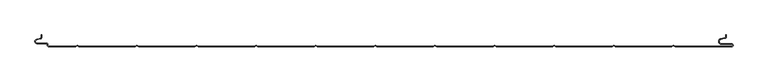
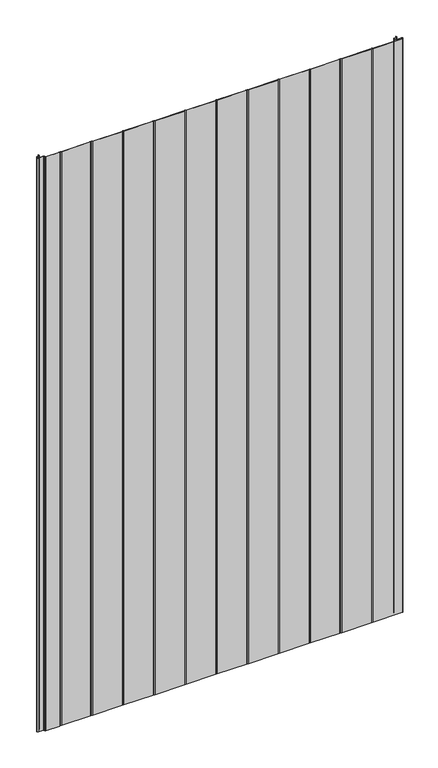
"""IFC4 building model written with IfcOpenShell, lengths in millimetres: plate geometry, PM1_Curtain-Panel_Perfil-Frigorífico : ACH_PM1_Panel-Acústico-Sectorización_50M."""

from ifc_helpers import new_model, si_unit, frame, origin, place, context, project, spatial, polyline, circle_curve, source, transform, mapped, element, save
from ifc_brep_helpers import plane_surface, cylinder_surface, revolved_surface, advanced_brep


def plate_24b0a13b(model_context):
    return source(origin(), model_context, "Body", "AdvancedBrep", [
        advanced_brep(
        [(-575.0, -34.121443, 1945.7507136), (-576.5500978, -36.0701831, 1945.7507136), (-582.7098239, -37.492268, 1945.7507136), (-581.9, -44.6, 1945.7507136), (-566.4, -44.6, 1945.7507136), (-564.4, -46.6, 1945.7507136), (-564.4, -48.0, 1945.7507136), (-562.4, -50.0, 1945.7507136), (-517.0999995, -50.0, 1945.7507136), (-514.4, -48.4411545, 1945.7507136), (-511.7000005, -50.0, 1945.7507136), (-417.0999995, -50.0, 1945.7507136), (-414.4, -48.4411545, 1945.7507136), (-411.7000005, -50.0, 1945.7507136), (-317.0999995, -50.0, 1945.7507136), (-314.4, -48.4411545, 1945.7507136), (-311.7000005, -50.0, 1945.7507136), (-217.0999995, -50.0, 1945.7507136), (-214.4, -48.4411545, 1945.7507136), (-211.7000005, -50.0, 1945.7507136), (-117.0999995, -50.0, 1945.7507136), (-114.4, -48.4411545, 1945.7507136), (-111.7000005, -50.0, 1945.7507136), (-17.0999995, -50.0, 1945.7507136), (-14.4, -48.4411545, 1945.7507136), (-11.7000005, -50.0, 1945.7507136), (82.9000005, -50.0, 1945.7507136), (85.6, -48.4411545, 1945.7507136), (88.2999995, -50.0, 1945.7507136), (182.9000005, -50.0, 1945.7507136), (185.6, -48.4411545, 1945.7507136), (188.2999995, -50.0, 1945.7507136), (282.9000005, -50.0, 1945.7507136), (285.6, -48.4411545, 1945.7507136), (288.2999995, -50.0, 1945.7507136), (382.9000005, -50.0, 1945.7507136), (385.6, -48.4411545, 1945.7507136), (388.2999995, -50.0, 1945.7507136), (482.9000005, -50.0, 1945.7507136), (485.6, -48.4411545, 1945.7507136), (488.2999995, -50.0, 1945.7507136), (583.1, -50.0, 1945.7507136), (585.6, -47.5, 1945.7507136), (583.1, -45.0, 1945.7507136), (566.1, -45.0, 1945.7507136), (565.405407, -37.060769, 1945.7507136), (571.8514855, -35.9241509, 1945.7507136), (574.0, -33.3636508, 1945.7507136), (574.0, -30.0, 1945.7507136), (573.2, -30.0, 1945.7507136), (573.2, -33.3636508, 1945.7507136), (571.7125669, -35.1363047, 1945.7507136), (565.2664884, -36.2729228, 1945.7507136), (566.1, -45.8, 1945.7507136), (583.1, -45.8, 1945.7507136), (583.1, -49.2, 1945.7507136), (488.5143588, -49.2, 1945.7507136), (485.6, -47.517394, 1945.7507136), (482.6856412, -49.2, 1945.7507136), (388.5143588, -49.2, 1945.7507136), (385.6, -47.517394, 1945.7507136), (382.6856412, -49.2, 1945.7507136), (288.5143588, -49.2, 1945.7507136), (285.6, -47.517394, 1945.7507136), (282.6856412, -49.2, 1945.7507136), (188.5143588, -49.2, 1945.7507136), (185.6, -47.517394, 1945.7507136), (182.6856412, -49.2, 1945.7507136), (88.5143588, -49.2, 1945.7507136), (85.6, -47.517394, 1945.7507136), (82.6856412, -49.2, 1945.7507136), (-11.4856412, -49.2, 1945.7507136), (-14.4, -47.517394, 1945.7507136), (-17.3143588, -49.2, 1945.7507136), (-111.4856412, -49.2, 1945.7507136), (-114.4, -47.517394, 1945.7507136), (-117.3143588, -49.2, 1945.7507136), (-211.4856412, -49.2, 1945.7507136), (-214.4, -47.517394, 1945.7507136), (-217.3143588, -49.2, 1945.7507136), (-311.4856412, -49.2, 1945.7507136), (-314.4, -47.517394, 1945.7507136), (-317.3143588, -49.2, 1945.7507136), (-411.4856412, -49.2, 1945.7507136), (-414.4, -47.517394, 1945.7507136), (-417.3143588, -49.2, 1945.7507136), (-511.4856412, -49.2, 1945.7507136), (-514.4, -47.517394, 1945.7507136), (-517.3143588, -49.2, 1945.7507136), (-562.4, -49.2, 1945.7507136), (-563.6, -48.0, 1945.7507136), (-563.6, -46.6, 1945.7507136), (-566.4, -43.8, 1945.7507136), (-581.9, -43.8, 1945.7507136), (-582.529863, -38.2717638, 1945.7507136), (-576.370137, -36.849679, 1945.7507136), (-574.2, -34.121443, 1945.7507136), (-574.2, -30.0, 1945.7507136), (-575.0, -30.0, 1945.7507136), (-575.0, -34.121443, 0.0), (-575.0, -30.0, 0.0), (-574.2, -30.0, 0.0), (-574.2, -34.121443, 0.0), (-576.370137, -36.8496792, 0.0), (-582.529863, -38.271764, 0.0), (-581.9, -43.8, 0.0), (-566.4, -43.8, 0.0), (-563.6, -46.6, 0.0), (-563.6, -48.0, 0.0), (-562.4, -49.2, 0.0), (-517.3143588, -49.2, 0.0), (-514.4, -47.517394, 0.0), (-511.4856412, -49.2, 0.0), (-417.3143588, -49.2, 0.0), (-414.4, -47.517394, 0.0), (-411.4856412, -49.2, 0.0), (-317.3143588, -49.2, 0.0), (-314.4, -47.517394, 0.0), (-311.4856412, -49.2, 0.0), (-217.3143588, -49.2, 0.0), (-214.4, -47.517394, 0.0), (-211.4856412, -49.2, 0.0), (-117.3143588, -49.2, 0.0), (-114.4, -47.517394, 0.0), (-111.4856412, -49.2, 0.0), (-17.3143588, -49.2, 0.0), (-14.4, -47.517394, 0.0), (-11.4856412, -49.2, 0.0), (82.6856412, -49.2, 0.0), (85.6, -47.517394, 0.0), (88.5143588, -49.2, 0.0), (182.6856412, -49.2, 0.0), (185.6, -47.517394, 0.0), (188.5143588, -49.2, 0.0), (282.6856412, -49.2, 0.0), (285.6, -47.517394, 0.0), (288.5143588, -49.2, 0.0), (382.6856412, -49.2, 0.0), (385.6, -47.517394, 0.0), (388.5143588, -49.2, 0.0), (482.6856412, -49.2, 0.0), (485.6, -47.517394, 0.0), (488.5143588, -49.2, 0.0), (583.1, -49.2, 0.0), (583.1, -45.8, 0.0), (566.1, -45.8, 0.0), (565.2664884, -36.2729229, 0.0), (571.7125669, -35.1363047, 0.0), (573.2, -33.3636508, 0.0), (573.2, -30.0, 0.0), (574.0, -30.0, 0.0), (574.0, -33.3636508, 0.0), (571.8514855, -35.9241509, 0.0), (565.405407, -37.060769, 0.0), (566.1, -45.0, 0.0), (583.1, -45.0, 0.0), (585.6, -47.5, 0.0), (583.1, -50.0, 0.0), (488.2999995, -50.0, 0.0), (485.6, -48.4411545, 0.0), (482.9000005, -50.0, 0.0), (388.2999995, -50.0, 0.0), (385.6, -48.4411545, 0.0), (382.9000005, -50.0, 0.0), (288.2999995, -50.0, 0.0), (285.6, -48.4411545, 0.0), (282.9000005, -50.0, 0.0), (188.2999995, -50.0, 0.0), (185.6, -48.4411545, 0.0), (182.9000005, -50.0, 0.0), (88.2999995, -50.0, 0.0), (85.6, -48.4411545, 0.0), (82.9000005, -50.0, 0.0), (-11.7000005, -50.0, 0.0), (-14.4, -48.4411545, 0.0), (-17.0999995, -50.0, 0.0), (-111.7000005, -50.0, 0.0), (-114.4, -48.4411545, 0.0), (-117.0999995, -50.0, 0.0), (-211.7000005, -50.0, 0.0), (-214.4, -48.4411545, 0.0), (-217.0999995, -50.0, 0.0), (-311.7000005, -50.0, 0.0), (-314.4, -48.4411545, 0.0), (-317.0999995, -50.0, 0.0), (-411.7000005, -50.0, 0.0), (-414.4, -48.4411545, 0.0), (-417.0999995, -50.0, 0.0), (-511.7000005, -50.0, 0.0), (-514.4, -48.4411545, 0.0), (-517.0999995, -50.0, 0.0), (-562.4, -50.0, 0.0), (-564.4, -48.0, 0.0), (-564.4, -46.6, 0.0), (-566.4, -44.6, 0.0), (-581.9, -44.6, 0.0), (-582.7098239, -37.4922678, 0.0), (-576.5500979, -36.070183, 0.0)],
        [
            (0, 1, circle_curve(frame((-577.0, -34.121443, 1945.7507136), z_axis=(0.0, 0.0, -1.0), x_axis=(1.0, 0.0, 0.0)), 2.0)),
            (1, 2),
            (2, 3, circle_curve(frame((-581.9, -41.0, 1945.7507136), z_axis=(0.0, 0.0, 1.0), x_axis=(1.0, 0.0, 0.0)), 3.6)),
            (3, 4),
            (4, 5, circle_curve(frame((-566.4, -46.6, 1945.7507136), z_axis=(0.0, 0.0, -1.0), x_axis=(1.0, 0.0, 0.0)), 2.0)),
            (5, 6),
            (6, 7, circle_curve(frame((-562.4, -48.0, 1945.7507136), z_axis=(0.0, 0.0, 1.0), x_axis=(1.0, 0.0, 0.0)), 2.0)),
            (7, 8),
            (8, 9),
            (9, 10),
            (10, 11),
            (11, 12),
            (12, 13),
            (13, 14),
            (14, 15),
            (15, 16),
            (16, 17),
            (17, 18),
            (18, 19),
            (19, 20),
            (20, 21),
            (21, 22),
            (22, 23),
            (23, 24),
            (24, 25),
            (25, 26),
            (26, 27),
            (27, 28),
            (28, 29),
            (29, 30),
            (30, 31),
            (31, 32),
            (32, 33),
            (33, 34),
            (34, 35),
            (35, 36),
            (36, 37),
            (37, 38),
            (38, 39),
            (39, 40),
            (40, 41),
            (41, 42, circle_curve(frame((583.1, -47.5, 1945.7507136), z_axis=(0.0, 0.0, 1.0), x_axis=(1.0, 0.0, 0.0)), 2.5)),
            (42, 43, circle_curve(frame((583.1, -47.5, 1945.7507136), z_axis=(0.0, 0.0, 1.0), x_axis=(1.0, 0.0, 0.0)), 2.5)),
            (43, 44),
            (44, 45, circle_curve(frame((566.1, -41.0, 1945.7507136), z_axis=(0.0, 0.0, -1.0), x_axis=(1.0, 0.0, 0.0)), 4.0)),
            (45, 46),
            (46, 47, circle_curve(frame((571.4, -33.3636508, 1945.7507136), z_axis=(0.0, 0.0, 1.0), x_axis=(1.0, 0.0, 0.0)), 2.6)),
            (47, 48),
            (48, 49),
            (49, 50),
            (50, 51, circle_curve(frame((571.4, -33.3636508, 1945.7507136), z_axis=(0.0, 0.0, -1.0), x_axis=(1.0, 0.0, 0.0)), 1.8)),
            (51, 52),
            (52, 53, circle_curve(frame((566.1, -41.0, 1945.7507136), z_axis=(0.0, 0.0, 1.0), x_axis=(1.0, 0.0, 0.0)), 4.8)),
            (53, 54),
            (54, 55, circle_curve(frame((583.1, -47.5, 1945.7507136), z_axis=(0.0, 0.0, -1.0), x_axis=(1.0, 0.0, 0.0)), 1.7)),
            (55, 56),
            (56, 57),
            (57, 58),
            (58, 59),
            (59, 60),
            (60, 61),
            (61, 62),
            (62, 63),
            (63, 64),
            (64, 65),
            (65, 66),
            (66, 67),
            (67, 68),
            (68, 69),
            (69, 70),
            (70, 71),
            (71, 72),
            (72, 73),
            (73, 74),
            (74, 75),
            (75, 76),
            (76, 77),
            (77, 78),
            (78, 79),
            (79, 80),
            (80, 81),
            (81, 82),
            (82, 83),
            (83, 84),
            (84, 85),
            (85, 86),
            (86, 87),
            (87, 88),
            (88, 89),
            (89, 90, circle_curve(frame((-562.4, -48.0, 1945.7507136), z_axis=(0.0, 0.0, -1.0), x_axis=(1.0, 0.0, 0.0)), 1.2)),
            (90, 91),
            (91, 92, circle_curve(frame((-566.4, -46.6, 1945.7507136), z_axis=(0.0, 0.0, 1.0), x_axis=(1.0, 0.0, 0.0)), 2.8)),
            (92, 93),
            (93, 94, circle_curve(frame((-581.9, -41.0, 1945.7507136), z_axis=(0.0, 0.0, -1.0), x_axis=(1.0, 0.0, 0.0)), 2.8)),
            (94, 95),
            (95, 96, circle_curve(frame((-577.0, -34.121443, 1945.7507136), z_axis=(0.0, 0.0, 1.0), x_axis=(1.0, 0.0, 0.0)), 2.8)),
            (96, 97),
            (97, 98),
            (98, 0),
            (99, 100),
            (100, 101),
            (101, 102),
            (102, 103, circle_curve(frame((-577.0, -34.121443, 0.0), z_axis=(0.0, 0.0, -1.0), x_axis=(1.0, 0.0, 0.0)), 2.8)),
            (103, 104),
            (104, 105, circle_curve(frame((-581.9, -41.0, 0.0), z_axis=(0.0, 0.0, 1.0), x_axis=(1.0, 0.0, 0.0)), 2.8)),
            (105, 106),
            (106, 107, circle_curve(frame((-566.4, -46.6, 0.0), z_axis=(0.0, 0.0, -1.0), x_axis=(1.0, 0.0, 0.0)), 2.8)),
            (107, 108),
            (108, 109, circle_curve(frame((-562.4, -48.0, 0.0), z_axis=(0.0, 0.0, 1.0), x_axis=(1.0, 0.0, 0.0)), 1.2)),
            (109, 110),
            (110, 111),
            (111, 112),
            (112, 113),
            (113, 114),
            (114, 115),
            (115, 116),
            (116, 117),
            (117, 118),
            (118, 119),
            (119, 120),
            (120, 121),
            (121, 122),
            (122, 123),
            (123, 124),
            (124, 125),
            (125, 126),
            (126, 127),
            (127, 128),
            (128, 129),
            (129, 130),
            (130, 131),
            (131, 132),
            (132, 133),
            (133, 134),
            (134, 135),
            (135, 136),
            (136, 137),
            (137, 138),
            (138, 139),
            (139, 140),
            (140, 141),
            (141, 142),
            (142, 143),
            (143, 144, circle_curve(frame((583.1, -47.5, 0.0), z_axis=(0.0, 0.0, 1.0), x_axis=(1.0, 0.0, 0.0)), 1.7)),
            (144, 145),
            (145, 146, circle_curve(frame((566.1, -41.0, 0.0), z_axis=(0.0, 0.0, -1.0), x_axis=(1.0, 0.0, 0.0)), 4.8)),
            (146, 147),
            (147, 148, circle_curve(frame((571.4, -33.3636508, 0.0), z_axis=(0.0, 0.0, 1.0), x_axis=(1.0, 0.0, 0.0)), 1.8)),
            (148, 149),
            (149, 150),
            (150, 151),
            (151, 152, circle_curve(frame((571.4, -33.3636508, 0.0), z_axis=(0.0, 0.0, -1.0), x_axis=(1.0, 0.0, 0.0)), 2.6)),
            (152, 153),
            (153, 154, circle_curve(frame((566.1, -41.0, 0.0), z_axis=(0.0, 0.0, 1.0), x_axis=(1.0, 0.0, 0.0)), 4.0)),
            (154, 155),
            (155, 156, circle_curve(frame((583.1, -47.5, 0.0), z_axis=(0.0, 0.0, -1.0), x_axis=(1.0, 0.0, 0.0)), 2.5)),
            (156, 157, circle_curve(frame((583.1, -47.5, 0.0), z_axis=(0.0, 0.0, -1.0), x_axis=(1.0, 0.0, 0.0)), 2.5)),
            (157, 158),
            (158, 159),
            (159, 160),
            (160, 161),
            (161, 162),
            (162, 163),
            (163, 164),
            (164, 165),
            (165, 166),
            (166, 167),
            (167, 168),
            (168, 169),
            (169, 170),
            (170, 171),
            (171, 172),
            (172, 173),
            (173, 174),
            (174, 175),
            (175, 176),
            (176, 177),
            (177, 178),
            (178, 179),
            (179, 180),
            (180, 181),
            (181, 182),
            (182, 183),
            (183, 184),
            (184, 185),
            (185, 186),
            (186, 187),
            (187, 188),
            (188, 189),
            (189, 190),
            (190, 191),
            (191, 192, circle_curve(frame((-562.4, -48.0, 0.0), z_axis=(0.0, 0.0, -1.0), x_axis=(1.0, 0.0, 0.0)), 2.0)),
            (192, 193),
            (193, 194, circle_curve(frame((-566.4, -46.6, 0.0), z_axis=(0.0, 0.0, 1.0), x_axis=(1.0, 0.0, 0.0)), 2.0)),
            (194, 195),
            (195, 196, circle_curve(frame((-581.9, -41.0, 0.0), z_axis=(0.0, 0.0, -1.0), x_axis=(1.0, 0.0, 0.0)), 3.6)),
            (196, 197),
            (197, 99, circle_curve(frame((-577.0, -34.121443, 0.0), z_axis=(0.0, 0.0, 1.0), x_axis=(1.0, 0.0, 0.0)), 2.0)),
            (0, 99),
            (197, 1),
            (196, 2),
            (195, 3),
            (194, 4),
            (193, 5),
            (192, 6),
            (191, 7),
            (190, 8),
            (189, 9),
            (188, 10),
            (187, 11),
            (186, 12),
            (185, 13),
            (184, 14),
            (183, 15),
            (182, 16),
            (181, 17),
            (180, 18),
            (179, 19),
            (178, 20),
            (177, 21),
            (176, 22),
            (175, 23),
            (174, 24),
            (173, 25),
            (172, 26),
            (171, 27),
            (170, 28),
            (169, 29),
            (168, 30),
            (167, 31),
            (166, 32),
            (165, 33),
            (164, 34),
            (163, 35),
            (162, 36),
            (161, 37),
            (160, 38),
            (159, 39),
            (158, 40),
            (157, 41),
            (155, 43),
            (154, 44),
            (153, 45),
            (152, 46),
            (151, 47),
            (150, 48),
            (149, 49),
            (148, 50),
            (147, 51),
            (146, 52),
            (145, 53),
            (144, 54),
            (143, 55),
            (142, 56),
            (141, 57),
            (140, 58),
            (139, 59),
            (138, 60),
            (137, 61),
            (136, 62),
            (135, 63),
            (134, 64),
            (133, 65),
            (132, 66),
            (131, 67),
            (130, 68),
            (129, 69),
            (128, 70),
            (127, 71),
            (126, 72),
            (125, 73),
            (124, 74),
            (123, 75),
            (122, 76),
            (121, 77),
            (120, 78),
            (119, 79),
            (118, 80),
            (117, 81),
            (116, 82),
            (115, 83),
            (114, 84),
            (113, 85),
            (112, 86),
            (111, 87),
            (110, 88),
            (109, 89),
            (108, 90),
            (107, 91),
            (106, 92),
            (105, 93),
            (104, 94),
            (103, 95),
            (102, 96),
            (101, 97),
            (100, 98),
        ],
        [
            plane_surface(frame((-575.0, -50.0, 1945.7507136), z_axis=(0.0, 0.0, 1.0), x_axis=(0.0, 1.0, 0.0))),
            plane_surface(frame((-575.0, -50.0, 0.0), z_axis=(0.0, 0.0, -1.0), x_axis=(0.0, 1.0, 0.0))),
            revolved_surface(polyline([(-575.0, -34.121443, 0.0), (-575.0, -34.121443, 1945.7507136)]), (-577.0, -34.121443, 1945.7507136), (0.0, 0.0, -1.0)),
            plane_surface(frame((-576.5500979, -36.070183, 1945.7507136), z_axis=(-0.22495108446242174, 0.9743700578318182, 0.0), x_axis=(0.0, 0.0, -1.0))),
            cylinder_surface(frame((-581.9, -41.0, 1945.7507136), z_axis=(0.0, 0.0, 1.0), x_axis=(1.0, 0.0, 0.0)), 3.6),
            plane_surface(frame((-581.9, -44.6, 1945.7507136), z_axis=(0.0, -1.0, 0.0), x_axis=(0.0, 0.0, -1.0))),
            revolved_surface(polyline([(-564.4, -46.6, 0.0), (-564.4, -46.6, 1945.7507136)]), (-566.4, -46.6, 1945.7507136), (0.0, 0.0, -1.0)),
            plane_surface(frame((-564.4, -46.6, 1945.7507136), z_axis=(-1.0, 0.0, 0.0), x_axis=(0.0, 0.0, -1.0))),
            cylinder_surface(frame((-562.4, -48.0, 1945.7507136), z_axis=(0.0, 0.0, 1.0), x_axis=(1.0, 0.0, 0.0)), 2.0),
            plane_surface(frame((-562.4, -50.0, 1945.7507136), z_axis=(0.0, -1.0, 0.0), x_axis=(0.0, 0.0, -1.0))),
            plane_surface(frame((-517.0999995, -50.0, 1945.7507136), z_axis=(0.5000000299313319, -0.8660253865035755, 0.0), x_axis=(0.0, 0.0, -1.0))),
            plane_surface(frame((-514.4, -48.4411545, 1945.7507136), z_axis=(-0.5000000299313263, -0.8660253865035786, 0.0), x_axis=(0.0, 0.0, -1.0))),
            plane_surface(frame((-511.7000005, -50.0, 1945.7507136), z_axis=(0.0, -1.0, 0.0), x_axis=(0.0, 0.0, -1.0))),
            plane_surface(frame((-417.0999995, -50.0, 1945.7507136), z_axis=(0.5000000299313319, -0.8660253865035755, 0.0), x_axis=(0.0, 0.0, -1.0))),
            plane_surface(frame((-414.4, -48.4411545, 1945.7507136), z_axis=(-0.5000000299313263, -0.8660253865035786, 0.0), x_axis=(0.0, 0.0, -1.0))),
            plane_surface(frame((-411.7000005, -50.0, 1945.7507136), z_axis=(0.0, -1.0, 0.0), x_axis=(0.0, 0.0, -1.0))),
            plane_surface(frame((-317.0999995, -50.0, 1945.7507136), z_axis=(0.5000000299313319, -0.8660253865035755, 0.0), x_axis=(0.0, 0.0, -1.0))),
            plane_surface(frame((-314.4, -48.4411545, 1945.7507136), z_axis=(-0.5000000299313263, -0.8660253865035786, 0.0), x_axis=(0.0, 0.0, -1.0))),
            plane_surface(frame((-311.7000005, -50.0, 1945.7507136), z_axis=(0.0, -1.0, 0.0), x_axis=(0.0, 0.0, -1.0))),
            plane_surface(frame((-217.0999995, -50.0, 1945.7507136), z_axis=(0.5000000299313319, -0.8660253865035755, 0.0), x_axis=(0.0, 0.0, -1.0))),
            plane_surface(frame((-214.4, -48.4411545, 1945.7507136), z_axis=(-0.5000000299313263, -0.8660253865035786, 0.0), x_axis=(0.0, 0.0, -1.0))),
            plane_surface(frame((-211.7000005, -50.0, 1945.7507136), z_axis=(0.0, -1.0, 0.0), x_axis=(0.0, 0.0, -1.0))),
            plane_surface(frame((-117.0999995, -50.0, 1945.7507136), z_axis=(0.5000000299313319, -0.8660253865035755, 0.0), x_axis=(0.0, 0.0, -1.0))),
            plane_surface(frame((-114.4, -48.4411545, 1945.7507136), z_axis=(-0.5000000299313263, -0.8660253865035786, 0.0), x_axis=(0.0, 0.0, -1.0))),
            plane_surface(frame((-111.7000005, -50.0, 1945.7507136), z_axis=(0.0, -1.0, 0.0), x_axis=(0.0, 0.0, -1.0))),
            plane_surface(frame((-17.0999995, -50.0, 1945.7507136), z_axis=(0.5000000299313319, -0.8660253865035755, 0.0), x_axis=(0.0, 0.0, -1.0))),
            plane_surface(frame((-14.4, -48.4411545, 1945.7507136), z_axis=(-0.5000000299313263, -0.8660253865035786, 0.0), x_axis=(0.0, 0.0, -1.0))),
            plane_surface(frame((-11.7000005, -50.0, 1945.7507136), z_axis=(0.0, -1.0, 0.0), x_axis=(0.0, 0.0, -1.0))),
            plane_surface(frame((82.9000005, -50.0, 1945.7507136), z_axis=(0.5000000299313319, -0.8660253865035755, 0.0), x_axis=(0.0, 0.0, -1.0))),
            plane_surface(frame((85.6, -48.4411545, 1945.7507136), z_axis=(-0.5000000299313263, -0.8660253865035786, 0.0), x_axis=(0.0, 0.0, -1.0))),
            plane_surface(frame((88.2999995, -50.0, 1945.7507136), z_axis=(0.0, -1.0, 0.0), x_axis=(0.0, 0.0, -1.0))),
            plane_surface(frame((182.9000005, -50.0, 1945.7507136), z_axis=(0.5000000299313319, -0.8660253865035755, 0.0), x_axis=(0.0, 0.0, -1.0))),
            plane_surface(frame((185.6, -48.4411545, 1945.7507136), z_axis=(-0.5000000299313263, -0.8660253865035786, 0.0), x_axis=(0.0, 0.0, -1.0))),
            plane_surface(frame((188.2999995, -50.0, 1945.7507136), z_axis=(0.0, -1.0, 0.0), x_axis=(0.0, 0.0, -1.0))),
            plane_surface(frame((282.9000005, -50.0, 1945.7507136), z_axis=(0.5000000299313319, -0.8660253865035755, 0.0), x_axis=(0.0, 0.0, -1.0))),
            plane_surface(frame((285.6, -48.4411545, 1945.7507136), z_axis=(-0.5000000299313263, -0.8660253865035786, 0.0), x_axis=(0.0, 0.0, -1.0))),
            plane_surface(frame((288.2999995, -50.0, 1945.7507136), z_axis=(0.0, -1.0, 0.0), x_axis=(0.0, 0.0, -1.0))),
            plane_surface(frame((382.9000005, -50.0, 1945.7507136), z_axis=(0.5000000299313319, -0.8660253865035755, 0.0), x_axis=(0.0, 0.0, -1.0))),
            plane_surface(frame((385.6, -48.4411545, 1945.7507136), z_axis=(-0.5000000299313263, -0.8660253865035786, 0.0), x_axis=(0.0, 0.0, -1.0))),
            plane_surface(frame((388.2999995, -50.0, 1945.7507136), z_axis=(0.0, -1.0, 0.0), x_axis=(0.0, 0.0, -1.0))),
            plane_surface(frame((482.9000005, -50.0, 1945.7507136), z_axis=(0.5000000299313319, -0.8660253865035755, 0.0), x_axis=(0.0, 0.0, -1.0))),
            plane_surface(frame((485.6, -48.4411545, 1945.7507136), z_axis=(-0.5000000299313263, -0.8660253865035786, 0.0), x_axis=(0.0, 0.0, -1.0))),
            plane_surface(frame((535.6, -50.0, 1945.7507136), z_axis=(0.0, -1.0, 0.0), x_axis=(0.0, 0.0, -1.0))),
            cylinder_surface(frame((583.1, -47.5, 1945.7507136), z_axis=(0.0, 0.0, 1.0), x_axis=(1.0, 0.0, 0.0)), 2.5),
            plane_surface(frame((583.1, -45.0, 1945.7507136), z_axis=(0.0, 1.0, 0.0), x_axis=(0.0, 0.0, -1.0))),
            revolved_surface(polyline([(570.1, -41.0, 0.0), (570.1, -41.0, 1945.7507136)]), (566.1, -41.0, 1945.7507136), (0.0, 0.0, -1.0)),
            plane_surface(frame((565.405407, -37.060769, 1945.7507136), z_axis=(0.17364825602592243, -0.9848077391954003, 0.0), x_axis=(0.0, 0.0, -1.0))),
            cylinder_surface(frame((571.4, -33.3636508, 1945.7507136), z_axis=(0.0, 0.0, 1.0), x_axis=(1.0, 0.0, 0.0)), 2.6),
            plane_surface(frame((574.0, -33.3636508, 1945.7507136), z_axis=(1.0, 0.0, 0.0), x_axis=(0.0, 0.0, -1.0))),
            plane_surface(frame((574.0, -30.0, 1945.7507136), z_axis=(0.0, 1.0, 0.0), x_axis=(0.0, 0.0, -1.0))),
            plane_surface(frame((573.2, -30.0, 1945.7507136), z_axis=(-1.0, 0.0, 0.0), x_axis=(0.0, 0.0, -1.0))),
            revolved_surface(polyline([(573.1999999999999, -33.3636508, 0.0), (573.1999999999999, -33.3636508, 1945.7507136)]), (571.4, -33.3636508, 1945.7507136), (0.0, 0.0, -1.0)),
            plane_surface(frame((571.7125669, -35.1363047, 1945.7507136), z_axis=(-0.17364825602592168, 0.9848077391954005, 0.0), x_axis=(0.0, 0.0, -1.0))),
            cylinder_surface(frame((566.1, -41.0, 1945.7507136), z_axis=(0.0, 0.0, 1.0), x_axis=(1.0, 0.0, 0.0)), 4.8),
            plane_surface(frame((566.1, -45.8, 1945.7507136), z_axis=(0.0, -1.0, 0.0), x_axis=(0.0, 0.0, -1.0))),
            revolved_surface(polyline([(584.8000000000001, -47.5, 0.0), (584.8000000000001, -47.5, 1945.7507136)]), (583.1, -47.5, 1945.7507136), (0.0, 0.0, -1.0)),
            plane_surface(frame((535.6, -49.2, 1945.7507136), z_axis=(0.0, 1.0, 0.0), x_axis=(0.0, 0.0, -1.0))),
            plane_surface(frame((488.5143588, -49.2, 1945.7507136), z_axis=(0.5000000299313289, 0.8660253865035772, 0.0), x_axis=(0.0, 0.0, -1.0))),
            plane_surface(frame((485.6, -47.517394, 1945.7507136), z_axis=(-0.5000000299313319, 0.8660253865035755, 0.0), x_axis=(0.0, 0.0, -1.0))),
            plane_surface(frame((482.6856412, -49.2, 1945.7507136), z_axis=(0.0, 1.0, 0.0), x_axis=(0.0, 0.0, -1.0))),
            plane_surface(frame((388.5143588, -49.2, 1945.7507136), z_axis=(0.5000000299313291, 0.8660253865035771, 0.0), x_axis=(0.0, 0.0, -1.0))),
            plane_surface(frame((385.6, -47.517394, 1945.7507136), z_axis=(-0.500000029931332, 0.8660253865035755, 0.0), x_axis=(0.0, 0.0, -1.0))),
            plane_surface(frame((382.6856412, -49.2, 1945.7507136), z_axis=(0.0, 1.0, 0.0), x_axis=(0.0, 0.0, -1.0))),
            plane_surface(frame((288.5143588, -49.2, 1945.7507136), z_axis=(0.5000000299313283, 0.8660253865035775, 0.0), x_axis=(0.0, 0.0, -1.0))),
            plane_surface(frame((285.6, -47.517394, 1945.7507136), z_axis=(-0.5000000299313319, 0.8660253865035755, 0.0), x_axis=(0.0, 0.0, -1.0))),
            plane_surface(frame((282.6856412, -49.2, 1945.7507136), z_axis=(0.0, 1.0, 0.0), x_axis=(0.0, 0.0, -1.0))),
            plane_surface(frame((188.5143588, -49.2, 1945.7507136), z_axis=(0.5000000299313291, 0.8660253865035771, 0.0), x_axis=(0.0, 0.0, -1.0))),
            plane_surface(frame((185.6, -47.517394, 1945.7507136), z_axis=(-0.5000000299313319, 0.8660253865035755, 0.0), x_axis=(0.0, 0.0, -1.0))),
            plane_surface(frame((182.6856412, -49.2, 1945.7507136), z_axis=(0.0, 1.0, 0.0), x_axis=(0.0, 0.0, -1.0))),
            plane_surface(frame((88.5143588, -49.2, 1945.7507136), z_axis=(0.5000000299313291, 0.8660253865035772, 0.0), x_axis=(0.0, 0.0, -1.0))),
            plane_surface(frame((85.6, -47.517394, 1945.7507136), z_axis=(-0.5000000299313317, 0.8660253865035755, 0.0), x_axis=(0.0, 0.0, -1.0))),
            plane_surface(frame((82.6856412, -49.2, 1945.7507136), z_axis=(0.0, 1.0, 0.0), x_axis=(0.0, 0.0, -1.0))),
            plane_surface(frame((-11.4856412, -49.2, 1945.7507136), z_axis=(0.500000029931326, 0.8660253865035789, 0.0), x_axis=(0.0, 0.0, -1.0))),
            plane_surface(frame((-14.4, -47.517394, 1945.7507136), z_axis=(-0.500000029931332, 0.8660253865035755, 0.0), x_axis=(0.0, 0.0, -1.0))),
            plane_surface(frame((-17.3143588, -49.2, 1945.7507136), z_axis=(0.0, 1.0, 0.0), x_axis=(0.0, 0.0, -1.0))),
            plane_surface(frame((-111.4856412, -49.2, 1945.7507136), z_axis=(0.5000000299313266, 0.8660253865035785, 0.0), x_axis=(0.0, 0.0, -1.0))),
            plane_surface(frame((-114.4, -47.517394, 1945.7507136), z_axis=(-0.5000000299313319, 0.8660253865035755, 0.0), x_axis=(0.0, 0.0, -1.0))),
            plane_surface(frame((-117.3143588, -49.2, 1945.7507136), z_axis=(0.0, 1.0, 0.0), x_axis=(0.0, 0.0, -1.0))),
            plane_surface(frame((-211.4856412, -49.2, 1945.7507136), z_axis=(0.5000000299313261, 0.8660253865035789, 0.0), x_axis=(0.0, 0.0, -1.0))),
            plane_surface(frame((-214.4, -47.517394, 1945.7507136), z_axis=(-0.500000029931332, 0.8660253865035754, 0.0), x_axis=(0.0, 0.0, -1.0))),
            plane_surface(frame((-217.3143588, -49.2, 1945.7507136), z_axis=(0.0, 1.0, 0.0), x_axis=(0.0, 0.0, -1.0))),
            plane_surface(frame((-311.4856412, -49.2, 1945.7507136), z_axis=(0.5000000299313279, 0.8660253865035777, 0.0), x_axis=(0.0, 0.0, -1.0))),
            plane_surface(frame((-314.4, -47.517394, 1945.7507136), z_axis=(-0.5000000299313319, 0.8660253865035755, 0.0), x_axis=(0.0, 0.0, -1.0))),
            plane_surface(frame((-317.3143588, -49.2, 1945.7507136), z_axis=(0.0, 1.0, 0.0), x_axis=(0.0, 0.0, -1.0))),
            plane_surface(frame((-411.4856412, -49.2, 1945.7507136), z_axis=(0.5000000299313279, 0.8660253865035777, 0.0), x_axis=(0.0, 0.0, -1.0))),
            plane_surface(frame((-414.4, -47.517394, 1945.7507136), z_axis=(-0.5000000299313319, 0.8660253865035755, 0.0), x_axis=(0.0, 0.0, -1.0))),
            plane_surface(frame((-417.3143588, -49.2, 1945.7507136), z_axis=(0.0, 1.0, 0.0), x_axis=(0.0, 0.0, -1.0))),
            plane_surface(frame((-511.4856412, -49.2, 1945.7507136), z_axis=(0.5000000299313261, 0.8660253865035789, 0.0), x_axis=(0.0, 0.0, -1.0))),
            plane_surface(frame((-514.4, -47.517394, 1945.7507136), z_axis=(-0.5000000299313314, 0.8660253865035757, 0.0), x_axis=(0.0, 0.0, -1.0))),
            plane_surface(frame((-517.3143588, -49.2, 1945.7507136), z_axis=(0.0, 1.0, 0.0), x_axis=(0.0, 0.0, -1.0))),
            revolved_surface(polyline([(-561.1999999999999, -48.0, 0.0), (-561.1999999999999, -48.0, 1945.7507136)]), (-562.4, -48.0, 1945.7507136), (0.0, 0.0, -1.0)),
            plane_surface(frame((-563.6, -48.0, 1945.7507136), z_axis=(1.0, 0.0, 0.0), x_axis=(0.0, 0.0, -1.0))),
            cylinder_surface(frame((-566.4, -46.6, 1945.7507136), z_axis=(0.0, 0.0, 1.0), x_axis=(1.0, 0.0, 0.0)), 2.8),
            plane_surface(frame((-566.4, -43.8, 1945.7507136), z_axis=(0.0, 1.0, 0.0), x_axis=(0.0, 0.0, -1.0))),
            revolved_surface(polyline([(-579.1, -41.0, 0.0), (-579.1, -41.0, 1945.7507136)]), (-581.9, -41.0, 1945.7507136), (0.0, 0.0, -1.0)),
            plane_surface(frame((-582.529863, -38.271764, 1945.7507136), z_axis=(0.22495108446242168, -0.9743700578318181, 0.0), x_axis=(0.0, 0.0, -1.0))),
            cylinder_surface(frame((-577.0, -34.121443, 1945.7507136), z_axis=(0.0, 0.0, 1.0), x_axis=(1.0, 0.0, 0.0)), 2.8),
            plane_surface(frame((-574.2, -34.121443, 1945.7507136), z_axis=(1.0, 0.0, 0.0), x_axis=(0.0, 0.0, -1.0))),
            plane_surface(frame((-574.2, -30.0, 1945.7507136), z_axis=(0.0, 1.0, 0.0), x_axis=(0.0, 0.0, -1.0))),
            plane_surface(frame((-575.0, -30.0, 1945.7507136), z_axis=(-1.0, 0.0, 0.0), x_axis=(0.0, 0.0, -1.0))),
        ],
        [
            (0, [[1, 2, 3, 4, 5, 6, 7, 8, 9, 10, 11, 12, 13, 14, 15, 16, 17, 18, 19, 20, 21, 22, 23, 24, 25, 26, 27, 28, 29, 30, 31, 32, 33, 34, 35, 36, 37, 38, 39, 40, 41, 42, 43, 44, 45, 46, 47, 48, 49, 50, 51, 52, 53, 54, 55, 56, 57, 58, 59, 60, 61, 62, 63, 64, 65, 66, 67, 68, 69, 70, 71, 72, 73, 74, 75, 76, 77, 78, 79, 80, 81, 82, 83, 84, 85, 86, 87, 88, 89, 90, 91, 92, 93, 94, 95, 96, 97, 98, 99]]),
            (1, [[100, 101, 102, 103, 104, 105, 106, 107, 108, 109, 110, 111, 112, 113, 114, 115, 116, 117, 118, 119, 120, 121, 122, 123, 124, 125, 126, 127, 128, 129, 130, 131, 132, 133, 134, 135, 136, 137, 138, 139, 140, 141, 142, 143, 144, 145, 146, 147, 148, 149, 150, 151, 152, 153, 154, 155, 156, 157, 158, 159, 160, 161, 162, 163, 164, 165, 166, 167, 168, 169, 170, 171, 172, 173, 174, 175, 176, 177, 178, 179, 180, 181, 182, 183, 184, 185, 186, 187, 188, 189, 190, 191, 192, 193, 194, 195, 196, 197, 198]]),
            (2, [[-1, 199, -198, 200]]),
            (3, [[-2, -200, -197, 201]]),
            (4, [[-3, -201, -196, 202]]),
            (5, [[-4, -202, -195, 203]]),
            (6, [[-5, -203, -194, 204]]),
            (7, [[-6, -204, -193, 205]]),
            (8, [[-7, -205, -192, 206]]),
            (9, [[-8, -206, -191, 207]]),
            (10, [[-9, -207, -190, 208]]),
            (11, [[-10, -208, -189, 209]]),
            (12, [[-11, -209, -188, 210]]),
            (13, [[-12, -210, -187, 211]]),
            (14, [[-13, -211, -186, 212]]),
            (15, [[-14, -212, -185, 213]]),
            (16, [[-15, -213, -184, 214]]),
            (17, [[-16, -214, -183, 215]]),
            (18, [[-17, -215, -182, 216]]),
            (19, [[-18, -216, -181, 217]]),
            (20, [[-19, -217, -180, 218]]),
            (21, [[-20, -218, -179, 219]]),
            (22, [[-21, -219, -178, 220]]),
            (23, [[-22, -220, -177, 221]]),
            (24, [[-23, -221, -176, 222]]),
            (25, [[-24, -222, -175, 223]]),
            (26, [[-25, -223, -174, 224]]),
            (27, [[-26, -224, -173, 225]]),
            (28, [[-27, -225, -172, 226]]),
            (29, [[-28, -226, -171, 227]]),
            (30, [[-29, -227, -170, 228]]),
            (31, [[-30, -228, -169, 229]]),
            (32, [[-31, -229, -168, 230]]),
            (33, [[-32, -230, -167, 231]]),
            (34, [[-33, -231, -166, 232]]),
            (35, [[-34, -232, -165, 233]]),
            (36, [[-35, -233, -164, 234]]),
            (37, [[-36, -234, -163, 235]]),
            (38, [[-37, -235, -162, 236]]),
            (39, [[-38, -236, -161, 237]]),
            (40, [[-39, -237, -160, 238]]),
            (41, [[-40, -238, -159, 239]]),
            (42, [[-41, -239, -158, 240]]),
            (43, [[-240, -157, -156, 241, -43, -42]]),
            (44, [[-44, -241, -155, 242]]),
            (45, [[-45, -242, -154, 243]]),
            (46, [[-46, -243, -153, 244]]),
            (47, [[-47, -244, -152, 245]]),
            (48, [[-48, -245, -151, 246]]),
            (49, [[-49, -246, -150, 247]]),
            (50, [[-50, -247, -149, 248]]),
            (51, [[-51, -248, -148, 249]]),
            (52, [[-52, -249, -147, 250]]),
            (53, [[-53, -250, -146, 251]]),
            (54, [[-54, -251, -145, 252]]),
            (55, [[-55, -252, -144, 253]]),
            (56, [[-56, -253, -143, 254]]),
            (57, [[-57, -254, -142, 255]]),
            (58, [[-58, -255, -141, 256]]),
            (59, [[-59, -256, -140, 257]]),
            (60, [[-60, -257, -139, 258]]),
            (61, [[-61, -258, -138, 259]]),
            (62, [[-62, -259, -137, 260]]),
            (63, [[-63, -260, -136, 261]]),
            (64, [[-64, -261, -135, 262]]),
            (65, [[-65, -262, -134, 263]]),
            (66, [[-66, -263, -133, 264]]),
            (67, [[-67, -264, -132, 265]]),
            (68, [[-68, -265, -131, 266]]),
            (69, [[-69, -266, -130, 267]]),
            (70, [[-70, -267, -129, 268]]),
            (71, [[-71, -268, -128, 269]]),
            (72, [[-72, -269, -127, 270]]),
            (73, [[-73, -270, -126, 271]]),
            (74, [[-74, -271, -125, 272]]),
            (75, [[-75, -272, -124, 273]]),
            (76, [[-76, -273, -123, 274]]),
            (77, [[-77, -274, -122, 275]]),
            (78, [[-78, -275, -121, 276]]),
            (79, [[-79, -276, -120, 277]]),
            (80, [[-80, -277, -119, 278]]),
            (81, [[-81, -278, -118, 279]]),
            (82, [[-82, -279, -117, 280]]),
            (83, [[-83, -280, -116, 281]]),
            (84, [[-84, -281, -115, 282]]),
            (85, [[-85, -282, -114, 283]]),
            (86, [[-86, -283, -113, 284]]),
            (87, [[-87, -284, -112, 285]]),
            (88, [[-88, -285, -111, 286]]),
            (89, [[-89, -286, -110, 287]]),
            (90, [[-90, -287, -109, 288]]),
            (91, [[-91, -288, -108, 289]]),
            (92, [[-92, -289, -107, 290]]),
            (93, [[-93, -290, -106, 291]]),
            (94, [[-94, -291, -105, 292]]),
            (95, [[-95, -292, -104, 293]]),
            (96, [[-96, -293, -103, 294]]),
            (97, [[-97, -294, -102, 295]]),
            (98, [[-98, -295, -101, 296]]),
            (99, [[-99, -296, -100, -199]]),
        ],
    ),
    ])


if __name__ == "__main__":
    model = new_model("IFC4")
    model_context = context("Model", 3, world=origin())
    ifc_project = project(units=[si_unit("LENGTHUNIT", "METRE", prefix="MILLI")], contexts=[model_context])
    site = spatial("IfcSite", under=ifc_project)
    building = spatial("IfcBuilding", under=site)
    placement = place(None, origin())
    plate_shape = plate_24b0a13b(model_context)
    element("IfcPlate", 1, ObjectType="PM1_Curtain-Panel_Perfil-Frigorífico : ACH_PM1_Panel-Acústico-Sectorización_50M", at=placement, inside=building, context=model_context, shape_type="MappedRepresentation", body=[
        mapped(plate_shape, transform((0.0, 0.0, 0.0), x_axis=(1.0, 0.0, 0.0), y_axis=(0.0, 1.0, 0.0), z_axis=(0.0, 0.0, 1.0))),
    ])
    save(model, "model.ifc")
